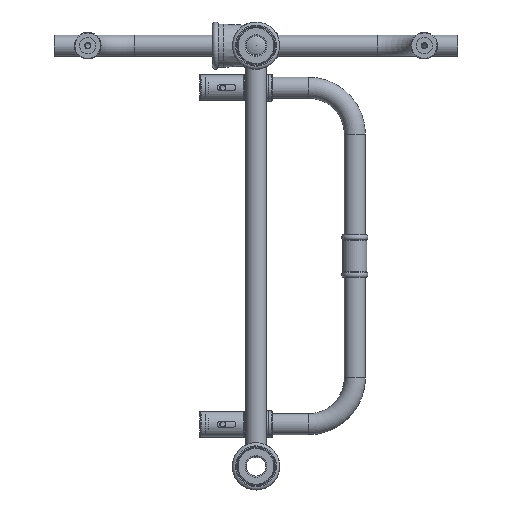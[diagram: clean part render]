
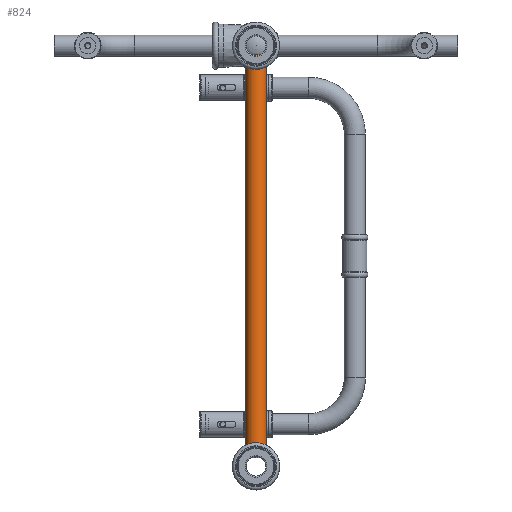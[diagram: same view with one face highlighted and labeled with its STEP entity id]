
A CAD part, front view. The second image highlights one B-rep face of the part: STEP entity #824.
In plain terms, the highlighted cylindrical face has radius 10 mm (diameter 20 mm), a full revolution.
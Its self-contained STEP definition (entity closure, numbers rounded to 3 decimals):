
#824 = ADVANCED_FACE( '', ( #1766, #1767 ), #1768, .T. );
#1766 = FACE_OUTER_BOUND( '', #3209, .T. );
#1767 = FACE_OUTER_BOUND( '', #3210, .T. );
#1768 = CYLINDRICAL_SURFACE( '', #3211, 10. );
#3209 = EDGE_LOOP( '', ( #4793 ) );
#3210 = EDGE_LOOP( '', ( #4794 ) );
#3211 = AXIS2_PLACEMENT_3D( '', #4795, #4796, #4797 );
#4793 = ORIENTED_EDGE( '', *, *, #6404, .T. );
#4794 = ORIENTED_EDGE( '', *, *, #6405, .F. );
#4795 = CARTESIAN_POINT( '', ( 192., 0., 0. ) );
#4796 = DIRECTION( '', ( 1., 0., 0. ) );
#4797 = DIRECTION( '', ( 0., 0., 1. ) );
#6404 = EDGE_CURVE( '', #7179, #7179, #7180, .T. );
#6405 = EDGE_CURVE( '', #7181, #7181, #7182, .T. );
#7179 = VERTEX_POINT( '', #10574 );
#7180 = CIRCLE( '', #10575, 10. );
#7181 = VERTEX_POINT( '', #10576 );
#7182 = CIRCLE( '', #10577, 10. );
#10574 = CARTESIAN_POINT( '', ( 192., 10., 0. ) );
#10575 = AXIS2_PLACEMENT_3D( '', #13120, #13121, #13122 );
#10576 = CARTESIAN_POINT( '', ( -192., 10., 0. ) );
#10577 = AXIS2_PLACEMENT_3D( '', #13123, #13124, #13125 );
#13120 = CARTESIAN_POINT( '', ( 192., 0., 0. ) );
#13121 = DIRECTION( '', ( -1., 0., 0. ) );
#13122 = DIRECTION( '', ( 0., 1., 0. ) );
#13123 = CARTESIAN_POINT( '', ( -192., 0., 0. ) );
#13124 = DIRECTION( '', ( -1., 0., 0. ) );
#13125 = DIRECTION( '', ( 0., 1., 0. ) );
